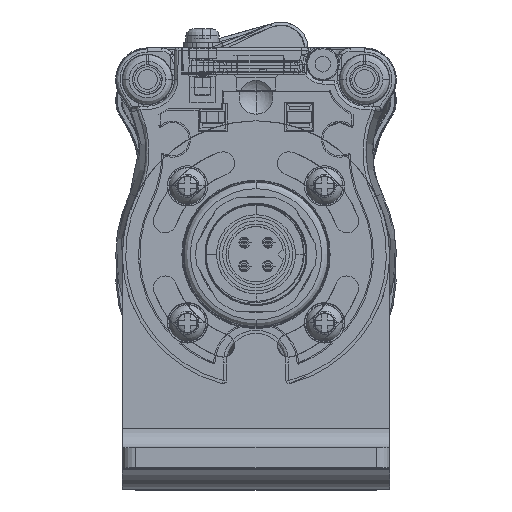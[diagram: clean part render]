
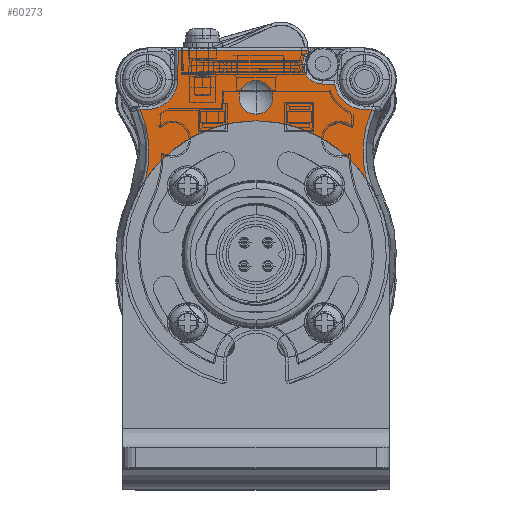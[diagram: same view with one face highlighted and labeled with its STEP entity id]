
A CAD part, top view. The second image highlights one B-rep face of the part: STEP entity #60273.
In plain terms, the highlighted planar face has unit normal (0, 0, 1).
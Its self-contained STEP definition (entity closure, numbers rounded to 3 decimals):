
#2009=CARTESIAN_POINT('',(0.,0.,50.));
#2010=DIRECTION('',(0.,0.,1.));
#2011=DIRECTION('',(0.826,0.563,0.));
#2012=AXIS2_PLACEMENT_3D('',#2009,#2010,#2011);
#2017=CARTESIAN_POINT('',(-31.48,15.3,50.));
#2018=DIRECTION('',(0.,0.,-1.));
#2019=DIRECTION('',(0.911,0.413,0.));
#2020=AXIS2_PLACEMENT_3D('',#2017,#2018,#2019);
#2025=DIRECTION('',(-1.,0.,0.));
#2026=VECTOR('',#2025,1.114);
#2027=CARTESIAN_POINT('',(-16.26,21.7,50.));
#2028=LINE('',#2027,#2026);
#2032=CARTESIAN_POINT('',(-16.26,26.25,50.));
#2033=DIRECTION('',(0.,0.,-1.));
#2034=DIRECTION('',(1.,-0.001,0.));
#2035=AXIS2_PLACEMENT_3D('',#2032,#2033,#2034);
#2040=DIRECTION('',(-0.017,-1.,0.));
#2041=VECTOR('',#2040,4.255);
#2042=CARTESIAN_POINT('',(-11.636,30.5,50.));
#2043=LINE('',#2042,#2041);
#2047=DIRECTION('',(-1.,0.,0.));
#2048=VECTOR('',#2047,19.4);
#2049=CARTESIAN_POINT('',(7.764,30.5,50.));
#2050=LINE('',#2049,#2048);
#2054=CARTESIAN_POINT('',(10.,28.5,50.));
#2055=DIRECTION('',(0.,0.,-1.));
#2056=DIRECTION('',(0.,-1.,0.));
#2057=AXIS2_PLACEMENT_3D('',#2054,#2055,#2056);
#2062=DIRECTION('',(-1.,0.,0.));
#2063=VECTOR('',#2062,1.762);
#2064=CARTESIAN_POINT('',(11.762,25.5,50.));
#2065=LINE('',#2064,#2063);
#2069=CARTESIAN_POINT('',(16.25,26.25,50.));
#2070=DIRECTION('',(0.,0.,-1.));
#2071=DIRECTION('',(0.,-1.,0.));
#2072=AXIS2_PLACEMENT_3D('',#2069,#2070,#2071);
#2077=DIRECTION('',(-1.,0.,0.));
#2078=VECTOR('',#2077,1.124);
#2079=CARTESIAN_POINT('',(17.374,21.7,50.));
#2080=LINE('',#2079,#2078);
#2084=CARTESIAN_POINT('',(31.48,15.3,50.));
#2085=DIRECTION('',(0.,0.,-1.));
#2086=DIRECTION('',(-0.966,-0.26,0.));
#2087=AXIS2_PLACEMENT_3D('',#2084,#2085,#2086);
#2092=CARTESIAN_POINT('',(0.,23.51,50.));
#2093=DIRECTION('',(0.,0.,1.));
#2094=DIRECTION('',(0.,-1.,0.));
#2095=AXIS2_PLACEMENT_3D('',#2092,#2093,#2094);
#2100=CARTESIAN_POINT('',(0.,23.51,50.));
#2101=DIRECTION('',(0.,0.,1.));
#2102=DIRECTION('',(0.,1.,0.));
#2103=AXIS2_PLACEMENT_3D('',#2100,#2101,#2102);
#53786=CARTESIAN_POINT('',(-11.71,26.246,50.));
#53787=CARTESIAN_POINT('',(-16.26,21.7,50.));
#53788=VERTEX_POINT('',#53786);
#53789=VERTEX_POINT('',#53787);
#53796=CARTESIAN_POINT('',(-11.636,30.5,50.));
#53797=VERTEX_POINT('',#53796);
#53800=CARTESIAN_POINT('',(7.764,30.5,50.));
#53801=VERTEX_POINT('',#53800);
#53806=CARTESIAN_POINT('',(10.,25.5,50.));
#53807=VERTEX_POINT('',#53806);
#53810=CARTESIAN_POINT('',(11.762,25.5,50.));
#53811=VERTEX_POINT('',#53810);
#53816=CARTESIAN_POINT('',(16.25,21.7,50.));
#53817=VERTEX_POINT('',#53816);
#53820=CARTESIAN_POINT('',(17.374,21.7,50.));
#53821=VERTEX_POINT('',#53820);
#53846=CARTESIAN_POINT('',(-17.374,21.7,50.));
#53847=VERTEX_POINT('',#53846);
#53913=CARTESIAN_POINT('',(0.,20.97,50.));
#53914=CARTESIAN_POINT('',(0.,26.05,50.));
#53915=VERTEX_POINT('',#53913);
#53916=VERTEX_POINT('',#53914);
#55883=CARTESIAN_POINT('',(16.525,11.267,50.));
#55884=CARTESIAN_POINT('',(-16.525,11.267,50.));
#55885=VERTEX_POINT('',#55883);
#55886=VERTEX_POINT('',#55884);
#60239=CARTESIAN_POINT('',(0.,0.,50.));
#60240=DIRECTION('',(0.,0.,1.));
#60241=DIRECTION('',(1.,0.,0.));
#60242=AXIS2_PLACEMENT_3D('',#60239,#60240,#60241);
#60243=PLANE('',#60242);
#60245=ORIENTED_EDGE('',*,*,#60244,.T.);
#60247=ORIENTED_EDGE('',*,*,#60246,.F.);
#60249=ORIENTED_EDGE('',*,*,#60248,.F.);
#60251=ORIENTED_EDGE('',*,*,#60250,.F.);
#60253=ORIENTED_EDGE('',*,*,#60252,.F.);
#60255=ORIENTED_EDGE('',*,*,#60254,.F.);
#60257=ORIENTED_EDGE('',*,*,#60256,.F.);
#60259=ORIENTED_EDGE('',*,*,#60258,.F.);
#60260=ORIENTED_EDGE('',*,*,#60222,.F.);
#60262=ORIENTED_EDGE('',*,*,#60261,.F.);
#60264=ORIENTED_EDGE('',*,*,#60263,.F.);
#60265=EDGE_LOOP('',(#60245,#60247,#60249,#60251,#60253,#60255,#60257,#60259,
#60260,#60262,#60264));
#60266=FACE_OUTER_BOUND('',#60265,.F.);
#60268=ORIENTED_EDGE('',*,*,#60267,.T.);
#60270=ORIENTED_EDGE('',*,*,#60269,.T.);
#60271=EDGE_LOOP('',(#60268,#60270));
#60272=FACE_BOUND('',#60271,.F.);
#2013=CIRCLE('',#2012,20.);
#2021=CIRCLE('',#2020,15.49);
#2036=CIRCLE('',#2035,4.55);
#2058=CIRCLE('',#2057,3.);
#2073=CIRCLE('',#2072,4.55);
#2088=CIRCLE('',#2087,15.49);
#2096=CIRCLE('',#2095,2.54);
#2104=CIRCLE('',#2103,2.54);
#60222=EDGE_CURVE('',#53817,#53811,#2073,.T.);
#60244=EDGE_CURVE('',#55885,#55886,#2013,.T.);
#60246=EDGE_CURVE('',#53847,#55886,#2021,.T.);
#60248=EDGE_CURVE('',#53789,#53847,#2028,.T.);
#60250=EDGE_CURVE('',#53788,#53789,#2036,.T.);
#60252=EDGE_CURVE('',#53797,#53788,#2043,.T.);
#60254=EDGE_CURVE('',#53801,#53797,#2050,.T.);
#60256=EDGE_CURVE('',#53807,#53801,#2058,.T.);
#60258=EDGE_CURVE('',#53811,#53807,#2065,.T.);
#60261=EDGE_CURVE('',#53821,#53817,#2080,.T.);
#60263=EDGE_CURVE('',#55885,#53821,#2088,.T.);
#60267=EDGE_CURVE('',#53915,#53916,#2096,.T.);
#60269=EDGE_CURVE('',#53916,#53915,#2104,.T.);
#60273=ADVANCED_FACE('',(#60266,#60272),#60243,.T.);
